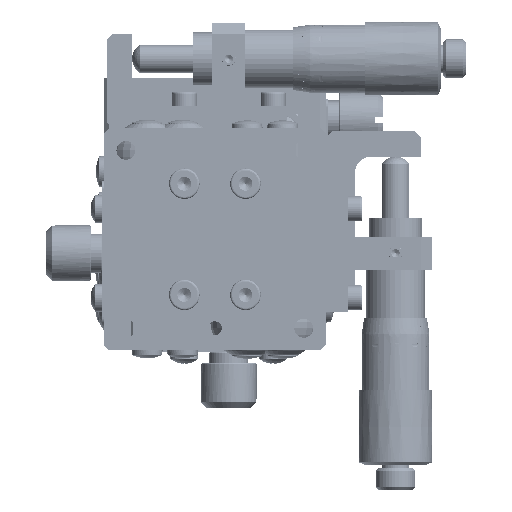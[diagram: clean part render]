
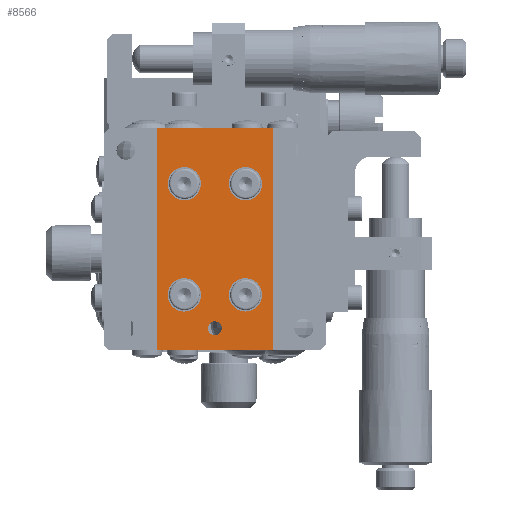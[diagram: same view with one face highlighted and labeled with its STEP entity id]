
A CAD part, front view. The second image highlights one B-rep face of the part: STEP entity #8566.
In plain terms, the highlighted planar face has unit normal (0, -1, 0).
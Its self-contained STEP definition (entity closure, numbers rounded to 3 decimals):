
#62 = VERTEX_POINT ( 'NONE', #122805 ) ;
#1025 = DIRECTION ( 'NONE',  ( 0., 0., -1. ) ) ;
#2751 = EDGE_LOOP ( 'NONE', ( #19363 ) ) ;
#4590 = VERTEX_POINT ( 'NONE', #223022 ) ;
#8566 = ADVANCED_FACE ( 'NONE', ( #82286, #27107, #11311, #200568, #216380, #117186 ), #198344, .F. ) ;
#11311 = FACE_BOUND ( 'NONE', #142408, .T. ) ;
#12416 = EDGE_LOOP ( 'NONE', ( #28290 ) ) ;
#13205 = CARTESIAN_POINT ( 'NONE',  ( -5.5, -39.5, -1. ) ) ;
#15555 = LINE ( 'NONE', #132786, #120028 ) ;
#18421 = DIRECTION ( 'NONE',  ( 0., -1., 0. ) ) ;
#19363 = ORIENTED_EDGE ( 'NONE', *, *, #165533, .T. ) ;
#19396 = EDGE_CURVE ( 'NONE', #4590, #70374, #141851, .T. ) ;
#21119 = CARTESIAN_POINT ( 'NONE',  ( 0., -39.5, -27. ) ) ;
#21871 = ORIENTED_EDGE ( 'NONE', *, *, #170996, .F. ) ;
#26285 = CARTESIAN_POINT ( 'NONE',  ( 10.5, -39.5, -31. ) ) ;
#27107 = FACE_BOUND ( 'NONE', #75375, .T. ) ;
#28290 = ORIENTED_EDGE ( 'NONE', *, *, #47261, .F. ) ;
#28373 = AXIS2_PLACEMENT_3D ( 'NONE', #131983, #200716, #159725 ) ;
#28516 = LINE ( 'NONE', #26285, #80647 ) ;
#30464 = CARTESIAN_POINT ( 'NONE',  ( 10.5, -39.5, 9. ) ) ;
#34426 = CIRCLE ( 'NONE', #92045, 3. ) ;
#40810 = CIRCLE ( 'NONE', #112839, 3. ) ;
#41103 = CIRCLE ( 'NONE', #220894, 3. ) ;
#43721 = VECTOR ( 'NONE', #1025, 1000. ) ;
#44047 = DIRECTION ( 'NONE',  ( 0., 0., -1. ) ) ;
#46418 = CARTESIAN_POINT ( 'NONE',  ( 0., -39.5, -28.25 ) ) ;
#47261 = EDGE_CURVE ( 'NONE', #221487, #221487, #125538, .T. ) ;
#48992 = ORIENTED_EDGE ( 'NONE', *, *, #158423, .F. ) ;
#50321 = CARTESIAN_POINT ( 'NONE',  ( 10.5, -39.5, 9. ) ) ;
#50923 = AXIS2_PLACEMENT_3D ( 'NONE', #21119, #209256, #88718 ) ;
#53378 = DIRECTION ( 'NONE',  ( 0., 0., -1. ) ) ;
#70374 = VERTEX_POINT ( 'NONE', #202945 ) ;
#73174 = ORIENTED_EDGE ( 'NONE', *, *, #19396, .F. ) ;
#75375 = EDGE_LOOP ( 'NONE', ( #146036 ) ) ;
#75704 = CARTESIAN_POINT ( 'NONE',  ( 5.5, -39.5, -4. ) ) ;
#76826 = CARTESIAN_POINT ( 'NONE',  ( -10.5, -39.5, -31. ) ) ;
#80013 = ORIENTED_EDGE ( 'NONE', *, *, #208238, .T. ) ;
#80647 = VECTOR ( 'NONE', #149085, 1000. ) ;
#82286 = FACE_BOUND ( 'NONE', #2751, .T. ) ;
#82853 = DIRECTION ( 'NONE',  ( 0., 0., -1. ) ) ;
#85199 = DIRECTION ( 'NONE',  ( 1., 0., 0. ) ) ;
#88280 = DIRECTION ( 'NONE',  ( 0., -1., 0. ) ) ;
#88718 = DIRECTION ( 'NONE',  ( 0., 0., -1. ) ) ;
#92045 = AXIS2_PLACEMENT_3D ( 'NONE', #134646, #103042, #82853 ) ;
#103042 = DIRECTION ( 'NONE',  ( 0., -1., 0. ) ) ;
#112839 = AXIS2_PLACEMENT_3D ( 'NONE', #13205, #88280, #53378 ) ;
#114543 = CARTESIAN_POINT ( 'NONE',  ( 5.5, -39.5, -24. ) ) ;
#117003 = DIRECTION ( 'NONE',  ( 0., 0., -1. ) ) ;
#117186 = FACE_BOUND ( 'NONE', #12416, .T. ) ;
#120028 = VECTOR ( 'NONE', #117003, 1000. ) ;
#122805 = CARTESIAN_POINT ( 'NONE',  ( -5.5, -39.5, -4. ) ) ;
#125538 = CIRCLE ( 'NONE', #28373, 3. ) ;
#131983 = CARTESIAN_POINT ( 'NONE',  ( 5.5, -39.5, -21. ) ) ;
#132654 = EDGE_LOOP ( 'NONE', ( #80013, #73174, #48992, #203529 ) ) ;
#132786 = CARTESIAN_POINT ( 'NONE',  ( -10.5, -39.5, 9. ) ) ;
#133109 = VECTOR ( 'NONE', #85199, 1000. ) ;
#133286 = VERTEX_POINT ( 'NONE', #76826 ) ;
#134646 = CARTESIAN_POINT ( 'NONE',  ( -5.5, -39.5, -21. ) ) ;
#137024 = EDGE_CURVE ( 'NONE', #181530, #181530, #41103, .T. ) ;
#137881 = CARTESIAN_POINT ( 'NONE',  ( -10.5, -39.5, 9. ) ) ;
#137896 = EDGE_LOOP ( 'NONE', ( #21871 ) ) ;
#141159 = VERTEX_POINT ( 'NONE', #174957 ) ;
#141851 = LINE ( 'NONE', #155401, #43721 ) ;
#142408 = EDGE_LOOP ( 'NONE', ( #173329 ) ) ;
#146036 = ORIENTED_EDGE ( 'NONE', *, *, #137024, .F. ) ;
#149085 = DIRECTION ( 'NONE',  ( 1., 0., 0. ) ) ;
#155401 = CARTESIAN_POINT ( 'NONE',  ( 10.5, -39.5, 9. ) ) ;
#155873 = DIRECTION ( 'NONE',  ( 0., 0., -1. ) ) ;
#158423 = EDGE_CURVE ( 'NONE', #171067, #4590, #189937, .T. ) ;
#159725 = DIRECTION ( 'NONE',  ( 0., 0., -1. ) ) ;
#164983 = AXIS2_PLACEMENT_3D ( 'NONE', #30464, #183670, #44047 ) ;
#165533 = EDGE_CURVE ( 'NONE', #200702, #200702, #205622, .T. ) ;
#169456 = CARTESIAN_POINT ( 'NONE',  ( 5.5, -39.5, -1. ) ) ;
#170996 = EDGE_CURVE ( 'NONE', #62, #62, #40810, .T. ) ;
#171067 = VERTEX_POINT ( 'NONE', #137881 ) ;
#173329 = ORIENTED_EDGE ( 'NONE', *, *, #212139, .F. ) ;
#174957 = CARTESIAN_POINT ( 'NONE',  ( -5.5, -39.5, -24. ) ) ;
#181385 = EDGE_CURVE ( 'NONE', #171067, #133286, #15555, .T. ) ;
#181530 = VERTEX_POINT ( 'NONE', #75704 ) ;
#183670 = DIRECTION ( 'NONE',  ( 0., 1., 0. ) ) ;
#189937 = LINE ( 'NONE', #50321, #133109 ) ;
#198344 = PLANE ( 'NONE',  #164983 ) ;
#200568 = FACE_OUTER_BOUND ( 'NONE', #132654, .T. ) ;
#200702 = VERTEX_POINT ( 'NONE', #46418 ) ;
#200716 = DIRECTION ( 'NONE',  ( 0., -1., 0. ) ) ;
#202945 = CARTESIAN_POINT ( 'NONE',  ( 10.5, -39.5, -31. ) ) ;
#203529 = ORIENTED_EDGE ( 'NONE', *, *, #181385, .T. ) ;
#205622 = CIRCLE ( 'NONE', #50923, 1.25 ) ;
#208238 = EDGE_CURVE ( 'NONE', #133286, #70374, #28516, .T. ) ;
#209256 = DIRECTION ( 'NONE',  ( 0., 1., 0. ) ) ;
#212139 = EDGE_CURVE ( 'NONE', #141159, #141159, #34426, .T. ) ;
#216380 = FACE_BOUND ( 'NONE', #137896, .T. ) ;
#220894 = AXIS2_PLACEMENT_3D ( 'NONE', #169456, #18421, #155873 ) ;
#221487 = VERTEX_POINT ( 'NONE', #114543 ) ;
#223022 = CARTESIAN_POINT ( 'NONE',  ( 10.5, -39.5, 9. ) ) ;
